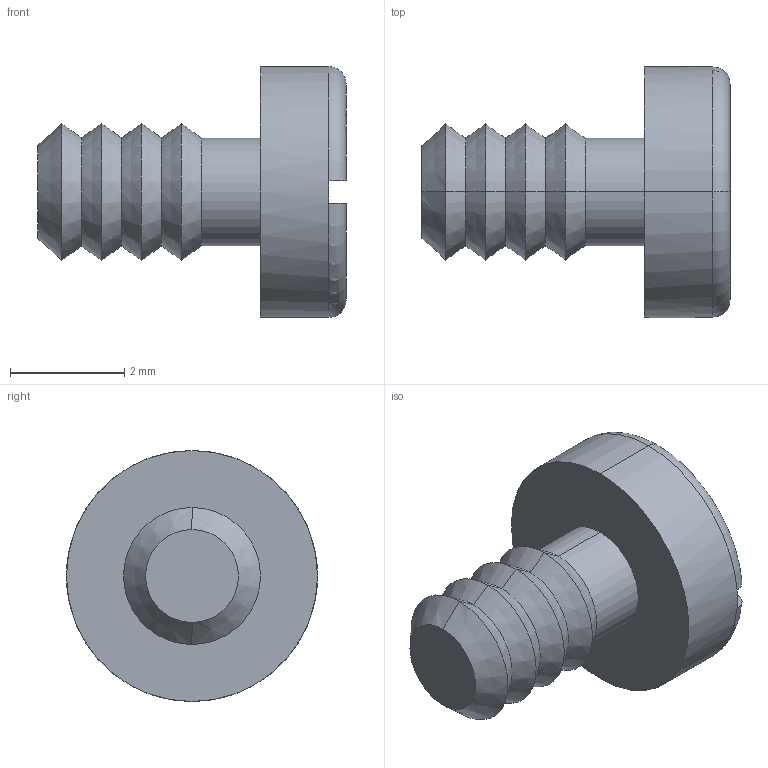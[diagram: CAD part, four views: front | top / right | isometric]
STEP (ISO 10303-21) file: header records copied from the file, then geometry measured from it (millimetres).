
FILE_DESCRIPTION (( 'STEP AP214' ), '1' );
FILE_NAME ('Cargol 2.5 x 4.7 PP58.STEP', '2017-12-04T12:05:57', ( 'aaa' ), ( '' ), 'SwSTEP 2.0', 'SolidWorks 2013', '' );
FILE_SCHEMA (( 'AUTOMOTIVE_DESIGN' ));
Length unit declared in the file: millimetre
Products named in the file (1): Cargol 2.5 x 4.7 PP58
Bounding box: 5.4 x 4.4 x 4.4 mm (x, y, z)
Volume: 35.2 mm3; surface area: 81 mm2
Topology: 1 solids, 1 shells, 30 faces, 60 edges, 33 vertices
Faces by surface type: cone 16, plane 7, cylinder 4, torus 3
Entity records: 814 total; most frequent: DIRECTION 150, CARTESIAN_POINT 144, ORIENTED_EDGE 120, AXIS2_PLACEMENT_3D 63, EDGE_CURVE 60, VERTEX_POINT 33, CIRCLE 32, EDGE_LOOP 31
